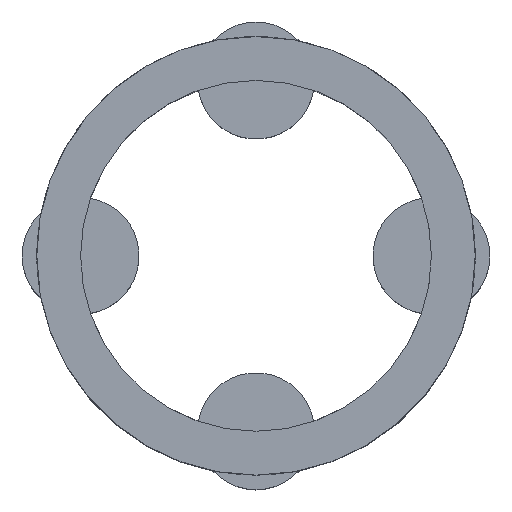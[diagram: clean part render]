
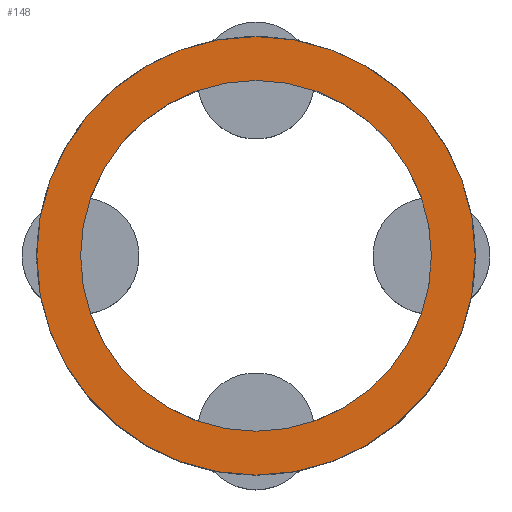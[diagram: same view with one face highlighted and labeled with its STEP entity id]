
A CAD part, top view. The second image highlights one B-rep face of the part: STEP entity #148.
In plain terms, the highlighted planar face has unit normal (0, 0, 1).
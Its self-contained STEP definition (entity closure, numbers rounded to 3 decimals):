
#103=PLANE('',#738);
#127=FACE_BOUND('',#245,.T.);
#128=FACE_BOUND('',#246,.T.);
#148=ADVANCED_FACE('',(#127,#128),#103,.T.);
#245=EDGE_LOOP('',(#375));
#246=EDGE_LOOP('',(#376));
#375=ORIENTED_EDGE('',*,*,#534,.F.);
#376=ORIENTED_EDGE('',*,*,#587,.T.);
#482=VERTEX_POINT('',#1040);
#527=VERTEX_POINT('',#1150);
#534=EDGE_CURVE('',#482,#482,#616,.T.);
#587=EDGE_CURVE('',#527,#527,#655,.T.);
#616=CIRCLE('',#686,6.);
#655=CIRCLE('',#737,7.5);
#686=AXIS2_PLACEMENT_3D('',#1039,#803,#804);
#737=AXIS2_PLACEMENT_3D('',#1149,#919,#920);
#738=AXIS2_PLACEMENT_3D('',#1151,#921,#922);
#803=DIRECTION('',(0.,0.,1.));
#804=DIRECTION('',(1.,0.,0.));
#919=DIRECTION('',(0.,0.,1.));
#920=DIRECTION('',(1.,0.,0.));
#921=DIRECTION('',(0.,0.,1.));
#922=DIRECTION('',(1.,0.,0.));
#1039=CARTESIAN_POINT('',(0.,0.,6.));
#1040=CARTESIAN_POINT('',(6.,0.,6.));
#1149=CARTESIAN_POINT('',(0.,0.,6.));
#1150=CARTESIAN_POINT('',(7.5,0.,6.));
#1151=CARTESIAN_POINT('',(0.,0.,6.));
